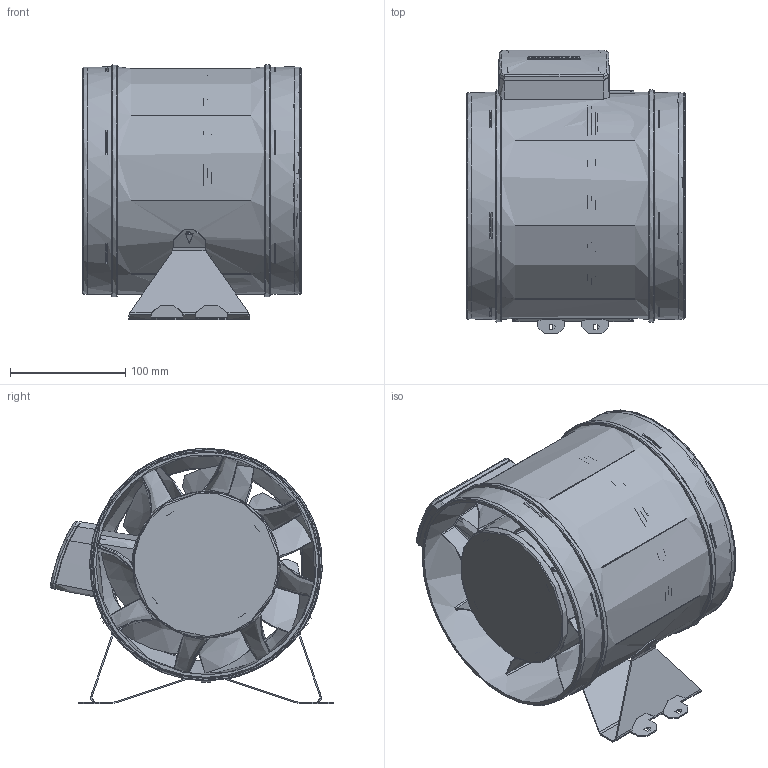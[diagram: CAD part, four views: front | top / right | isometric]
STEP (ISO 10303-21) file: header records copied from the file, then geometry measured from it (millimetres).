
FILE_DESCRIPTION ((), '1');
FILE_NAME ('C:\Users\Administrator\Desktop\塑料风机产品页\A200.stp', '2026-09-11T17:42:30', ('Unknown'), ('Unknown'), 'HarmonyWare STEP v2.1.4', 'HarmonyWare Translators', '');
FILE_SCHEMA (('CONFIG_CONTROL_DESIGN'));
Length unit declared in the file: millimetre
Products named in the file (7): 蝴蝶脚架火锅风机_objects
Assembly tree (6 placements, depth 2):
  (unnamed)
    蝴蝶脚架火锅风机_objects
    蝴蝶脚架火锅风机_objects
    蝴蝶脚架火锅风机_objects
    蝴蝶脚架火锅风机_objects
    蝴蝶脚架火锅风机_objects
    蝴蝶脚架火锅风机_objects
Bounding box: 189.8 x 246.34 x 221.75 mm (x, y, z)
Volume: 869360.2 mm3; surface area: 713229.8 mm2
Topology: 5 solids, 12 shells, 1889 faces, 5286 edges, 3377 vertices
Faces by surface type: bspline 1889
Entity records: 176529 total; most frequent: CARTESIAN_POINT 140410, ORIENTED_EDGE 10253, EDGE_CURVE 5191, B_SPLINE_CURVE_WITH_KNOTS 3696, VERTEX_POINT 3377, EDGE_LOOP 2065, FACE_OUTER_BOUND 1889, ADVANCED_FACE 1889
